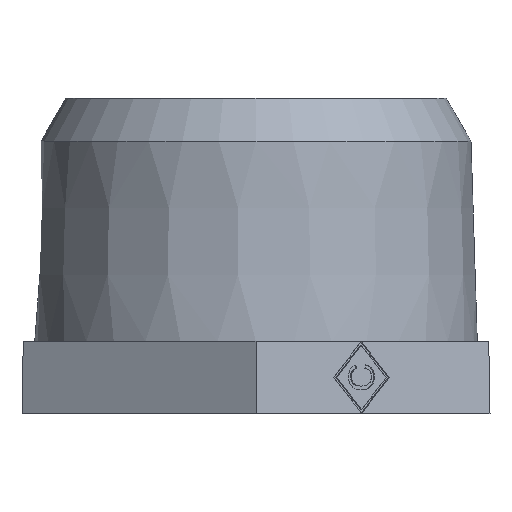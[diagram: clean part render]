
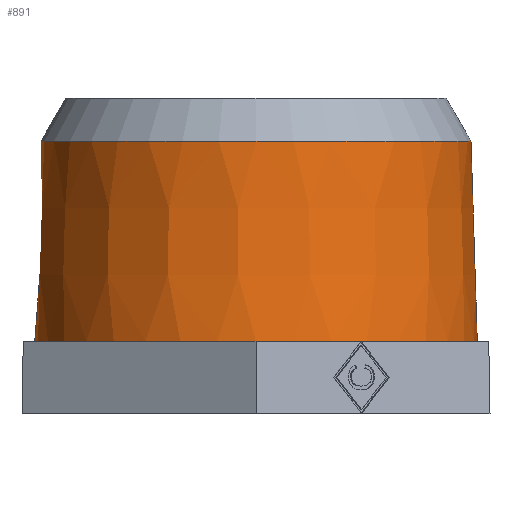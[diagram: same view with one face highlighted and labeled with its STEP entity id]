
A CAD part, front view. The second image highlights one B-rep face of the part: STEP entity #891.
In plain terms, the highlighted conical face has half-angle 1.8 degrees and reference radius 21.75 mm.
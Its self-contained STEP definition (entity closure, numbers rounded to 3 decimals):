
#840=CARTESIAN_POINT('',(21.131,0.,26.787));
#841=VERTEX_POINT('',#840);
#842=CARTESIAN_POINT('',(0.,0.,26.787));
#843=DIRECTION('',(0.0,0.0,1.0));
#844=DIRECTION('',(-1.0,0.0,0.0));
#845=AXIS2_PLACEMENT_3D('',#842,#843,#844);
#846=CIRCLE('',#845,21.131);
#847=EDGE_CURVE('',#841,#841,#846,.T.);
#872=CARTESIAN_POINT('',(0.,0.,7.1));
#873=DIRECTION('',(0.,0.,-1.0));
#874=DIRECTION('',(-1.0,0.0,0.0));
#875=AXIS2_PLACEMENT_3D('',#872,#873,#874);
#876=CONICAL_SURFACE('',#875,21.75,1.8);
#877=CARTESIAN_POINT('',(21.75,0.,7.1));
#878=VERTEX_POINT('',#877);
#879=CARTESIAN_POINT('',(0.,0.,7.1));
#880=DIRECTION('',(0.0,0.0,-1.0));
#881=DIRECTION('',(-1.0,0.0,0.0));
#882=AXIS2_PLACEMENT_3D('',#879,#880,#881);
#883=CIRCLE('',#882,21.75);
#884=EDGE_CURVE('',#878,#878,#883,.T.);
#885=ORIENTED_EDGE('',*,*,#884,.F.);
#886=EDGE_LOOP('',(#885));
#887=FACE_OUTER_BOUND('',#886,.T.);
#888=ORIENTED_EDGE('',*,*,#847,.F.);
#889=EDGE_LOOP('',(#888));
#890=FACE_BOUND('',#889,.T.);
#891=ADVANCED_FACE('',(#887,#890),#876,.T.);
